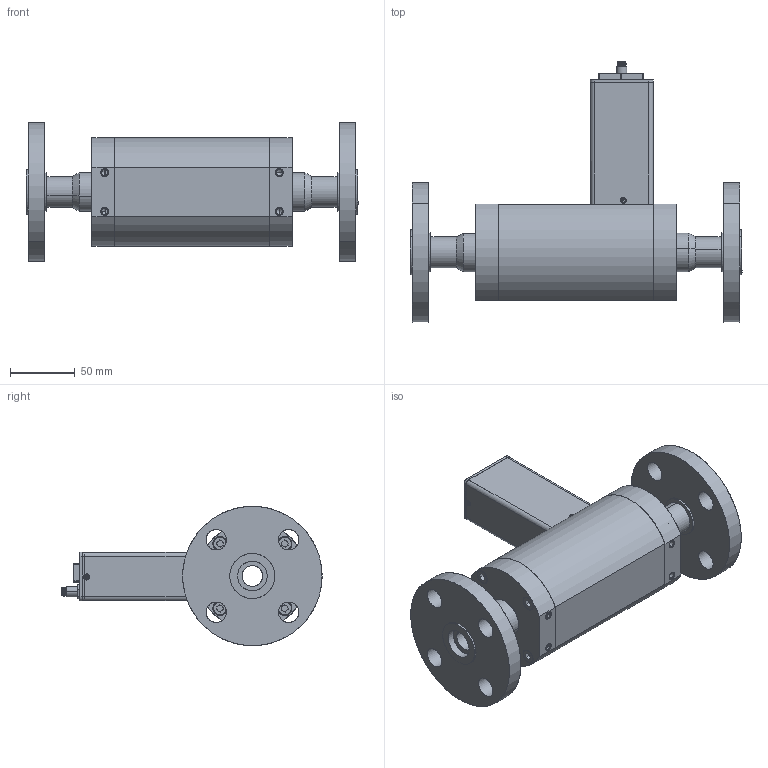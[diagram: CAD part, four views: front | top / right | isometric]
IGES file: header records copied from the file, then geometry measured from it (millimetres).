
Start section: SolidWorks IGES file using analytic representation for surfaces
Global section: file name: G:\Engineering\CAD MODELS FOR SALES\CAD MODEL STORAGE\SLA\SLA5863\CUSTOMER FILES\IGES\SLA5863-7-3G-1-A-REVB.IGS; native system: SolidWorks 2023; preprocessor: SolidWorks 2023; author: CFehr; date: 240820.140503; units: inch
Bounding box: 257 x 201.5 x 107.95 mm (x, y, z)
Surface area: 217439.2 mm2 (no closed solid volume)
Topology: 0 solids, 0 shells, 1887 faces, 19809 edges, 19762 vertices
Faces by surface type: bspline 1278, revolution 609
